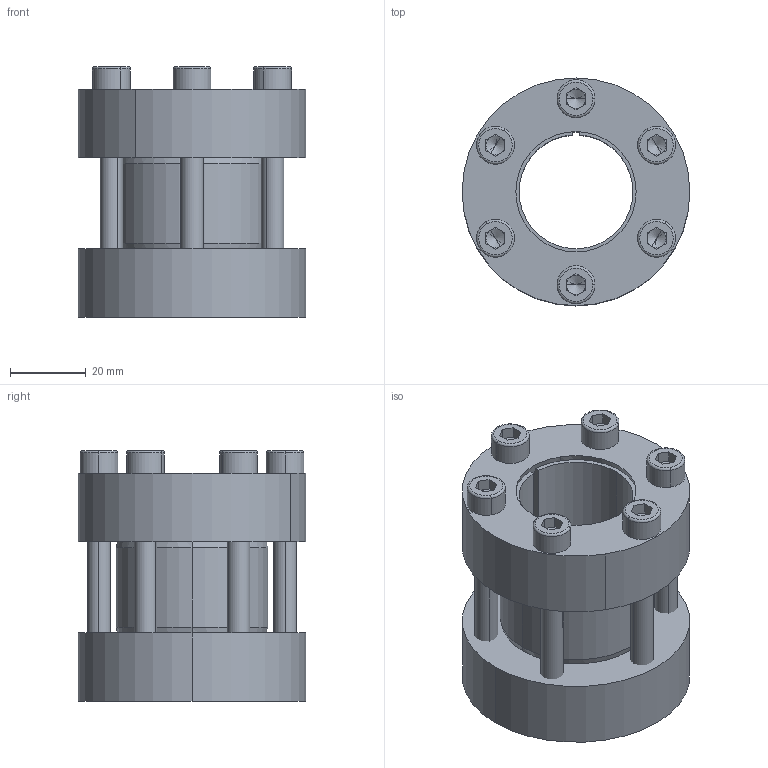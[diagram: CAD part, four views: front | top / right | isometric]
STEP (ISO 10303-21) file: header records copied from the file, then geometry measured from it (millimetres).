
FILE_DESCRIPTION (( 'STEP AP214' ), '1' );
FILE_NAME ('CONEX-M-30x60.step', '2013-04-06T13:25:20', ( 'Pc' ), ( '' ), 'SwSTEP 2.0', 'SolidWorks 2013', '' );
FILE_SCHEMA (( 'AUTOMOTIVE_DESIGN' ));
Length unit declared in the file: millimetre
Products named in the file (1): CONEX-M-30x60
Bounding box: 60 x 60 x 66.02 mm (x, y, z)
Volume: 94157.1 mm3; surface area: 42712.7 mm2
Topology: 9 solids, 9 shells, 214 faces, 482 edges, 286 vertices
Faces by surface type: plane 98, cylinder 58, cone 34, torus 24
Entity records: 8399 total; most frequent: DIRECTION 1122, CARTESIAN_POINT 998, ORIENTED_EDGE 940, EDGE_CURVE 470, AXIS2_PLACEMENT_3D 441, VERTEX_POINT 286, EDGE_LOOP 254, LINE 240
